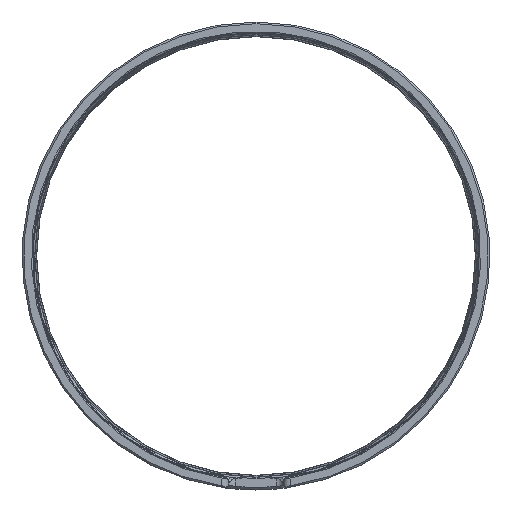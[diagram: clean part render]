
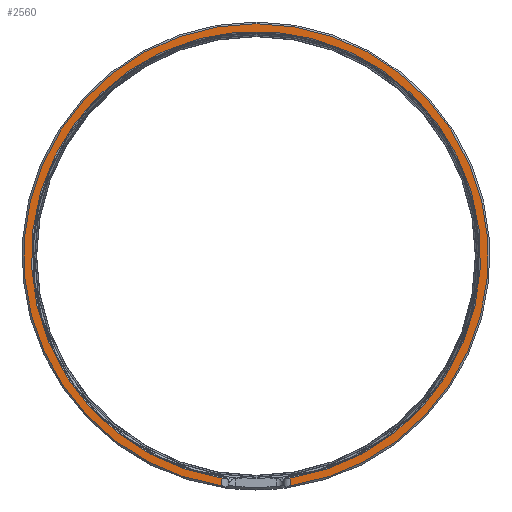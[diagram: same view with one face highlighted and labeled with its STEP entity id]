
A CAD part, left-side view. The second image highlights one B-rep face of the part: STEP entity #2560.
In plain terms, the highlighted planar face has unit normal (-1, 0, 0).
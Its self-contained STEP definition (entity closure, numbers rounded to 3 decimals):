
#93 = CIRCLE ( 'NONE', #2164, 68.85 ) ;
#325 = LINE ( 'NONE', #1128, #3234 ) ;
#436 = EDGE_CURVE ( 'NONE', #4445, #4768, #2485, .T. ) ;
#496 = PLANE ( 'NONE',  #770 ) ;
#567 = VECTOR ( 'NONE', #5938, 1000. ) ;
#770 = AXIS2_PLACEMENT_3D ( 'NONE', #2374, #4245, #3236 ) ;
#828 = DIRECTION ( 'NONE',  ( -1., 0., 0. ) ) ;
#936 = DIRECTION ( 'NONE',  ( 0., 0., 1. ) ) ;
#962 = DIRECTION ( 'NONE',  ( 0., 0., 1. ) ) ;
#1019 = DIRECTION ( 'NONE',  ( -1., 0., 0. ) ) ;
#1128 = CARTESIAN_POINT ( 'NONE',  ( -300., -10.2, -69.35 ) ) ;
#1519 = ORIENTED_EDGE ( 'NONE', *, *, #1762, .T. ) ;
#1540 = CARTESIAN_POINT ( 'NONE',  ( -300., -10.2, -68.09 ) ) ;
#1625 = DIRECTION ( 'NONE',  ( 0., 0., 1. ) ) ;
#1762 = EDGE_CURVE ( 'NONE', #5809, #4768, #1835, .T. ) ;
#1788 = VERTEX_POINT ( 'NONE', #5998 ) ;
#1835 = LINE ( 'NONE', #5469, #567 ) ;
#1930 = DIRECTION ( 'NONE',  ( -1., 0., 0. ) ) ;
#1961 = CARTESIAN_POINT ( 'NONE',  ( -300., -10.2, -65.789 ) ) ;
#2164 = AXIS2_PLACEMENT_3D ( 'NONE', #6088, #1930, #936 ) ;
#2181 = ORIENTED_EDGE ( 'NONE', *, *, #436, .F. ) ;
#2374 = CARTESIAN_POINT ( 'NONE',  ( -300., 0., 0. ) ) ;
#2483 = ORIENTED_EDGE ( 'NONE', *, *, #3475, .T. ) ;
#2485 = CIRCLE ( 'NONE', #5921, 66.575 ) ;
#2560 = ADVANCED_FACE ( 'NONE', ( #5567 ), #496, .T. ) ;
#2639 = CARTESIAN_POINT ( 'NONE',  ( -300., 0., 0. ) ) ;
#3036 = CIRCLE ( 'NONE', #3815, 68.85 ) ;
#3114 = ORIENTED_EDGE ( 'NONE', *, *, #5112, .F. ) ;
#3173 = VERTEX_POINT ( 'NONE', #1540 ) ;
#3234 = VECTOR ( 'NONE', #1625, 1000. ) ;
#3236 = DIRECTION ( 'NONE',  ( 0., 0., -1. ) ) ;
#3475 = EDGE_CURVE ( 'NONE', #1788, #5809, #3036, .T. ) ;
#3815 = AXIS2_PLACEMENT_3D ( 'NONE', #5204, #1019, #962 ) ;
#3852 = CARTESIAN_POINT ( 'NONE',  ( -300., 10.2, -68.09 ) ) ;
#3880 = CARTESIAN_POINT ( 'NONE',  ( -300., 10.2, -65.789 ) ) ;
#4245 = DIRECTION ( 'NONE',  ( -1., 0., 0. ) ) ;
#4445 = VERTEX_POINT ( 'NONE', #1961 ) ;
#4496 = DIRECTION ( 'NONE',  ( 0., 0., 1. ) ) ;
#4768 = VERTEX_POINT ( 'NONE', #3880 ) ;
#4995 = ORIENTED_EDGE ( 'NONE', *, *, #5014, .T. ) ;
#5014 = EDGE_CURVE ( 'NONE', #3173, #1788, #93, .T. ) ;
#5112 = EDGE_CURVE ( 'NONE', #3173, #4445, #325, .T. ) ;
#5204 = CARTESIAN_POINT ( 'NONE',  ( -300., 0., 0. ) ) ;
#5469 = CARTESIAN_POINT ( 'NONE',  ( -300., 10.2, -69.35 ) ) ;
#5567 = FACE_OUTER_BOUND ( 'NONE', #5732, .T. ) ;
#5732 = EDGE_LOOP ( 'NONE', ( #3114, #4995, #2483, #1519, #2181 ) ) ;
#5809 = VERTEX_POINT ( 'NONE', #3852 ) ;
#5921 = AXIS2_PLACEMENT_3D ( 'NONE', #2639, #828, #4496 ) ;
#5938 = DIRECTION ( 'NONE',  ( 0., 0., 1. ) ) ;
#5998 = CARTESIAN_POINT ( 'NONE',  ( -300., 0., 68.85 ) ) ;
#6088 = CARTESIAN_POINT ( 'NONE',  ( -300., 0., 0. ) ) ;
